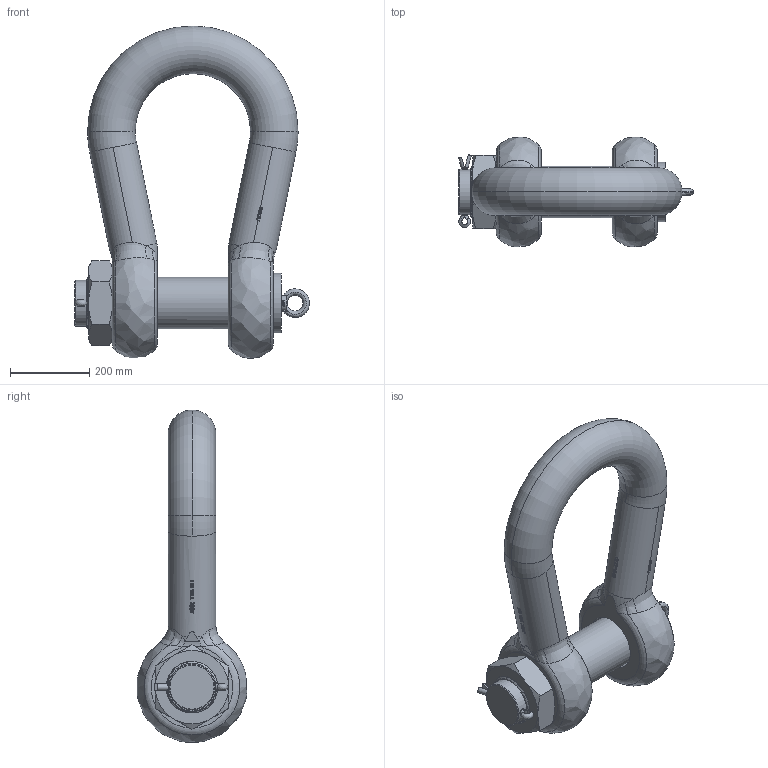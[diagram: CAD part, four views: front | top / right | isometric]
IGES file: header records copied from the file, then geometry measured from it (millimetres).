
Global section: file name: No Iges File Name specified; native system: Autodesk Inventor 2009; preprocessor: AutoDesk Inventor Iges Exporter R2009; author: Jack; date: 20091212.143826; units: millimetre
Bounding box: 591.27 x 276.12 x 836.06 mm (x, y, z)
Volume: 31006778.6 mm3; surface area: 1274428 mm2
Topology: 5 solids, 5 shells, 818 faces, 2188 edges, 1435 vertices
Faces by surface type: plane 390, bspline 247, cylinder 105, revolution 36, torus 20, cone 20
Full cylindrical faces by diameter (mm): 130 x12
